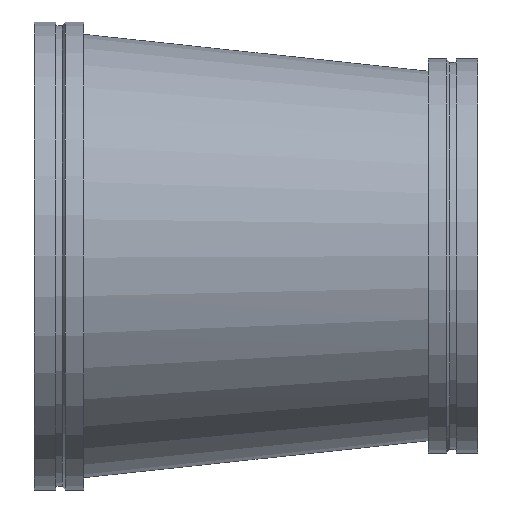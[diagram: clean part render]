
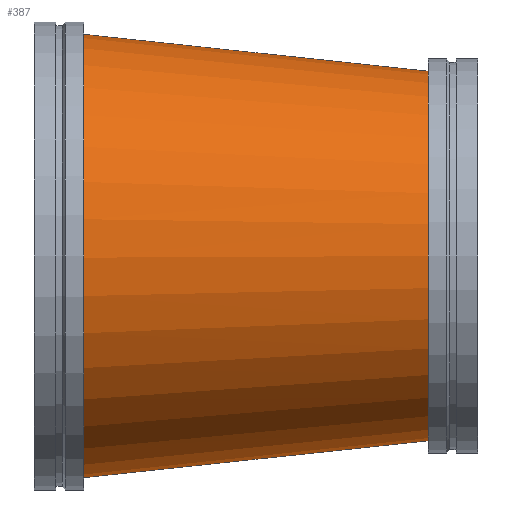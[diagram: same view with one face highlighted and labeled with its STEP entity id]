
A CAD part, front view. The second image highlights one B-rep face of the part: STEP entity #387.
In plain terms, the highlighted free-form (B-spline) face has degree [1, 2] with [2, 9] control points.
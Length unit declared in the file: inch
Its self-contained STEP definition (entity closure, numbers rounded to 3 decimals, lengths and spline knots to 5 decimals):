
#46=B_SPLINE_CURVE_WITH_KNOTS('',1,(#747,#748),.UNSPECIFIED.,.F.,.F.,(2,
2),(-1.5742,-0.00119),.UNSPECIFIED.);
#48=(
BOUNDED_SURFACE()
B_SPLINE_SURFACE(1,2,((#729,#730,#731,#732,#733,#734,#735,#736,#737),(#738,
#739,#740,#741,#742,#743,#744,#745,#746)),.UNSPECIFIED.,.F.,.T.,.F.)
B_SPLINE_SURFACE_WITH_KNOTS((2,2),(3,2,2,2,3),(-0.10594,1.6615),
(-3.14159,-1.5708,0.,1.5708,3.14159),
 .UNSPECIFIED.)
GEOMETRIC_REPRESENTATION_ITEM()
RATIONAL_B_SPLINE_SURFACE(((1.,0.707,1.,0.707,1.,
0.707,1.,0.707,1.),(1.,0.707,1.,0.707,
1.,0.707,1.,0.707,1.)))
REPRESENTATION_ITEM('')
SURFACE()
);
#98=FACE_OUTER_BOUND('',#120,.T.);
#120=EDGE_LOOP('',(#321,#322,#323,#324,#325,#326));
#129=CIRCLE('',#415,15.);
#130=CIRCLE('',#416,15.);
#153=CIRCLE('',#450,18.);
#154=CIRCLE('',#451,18.);
#166=VERTEX_POINT('',#628);
#167=VERTEX_POINT('',#629);
#190=VERTEX_POINT('',#695);
#191=VERTEX_POINT('',#696);
#203=EDGE_CURVE('',#166,#167,#129,.T.);
#204=EDGE_CURVE('',#167,#166,#130,.T.);
#235=EDGE_CURVE('',#190,#191,#153,.T.);
#236=EDGE_CURVE('',#191,#190,#154,.T.);
#243=EDGE_CURVE('',#167,#191,#46,.T.);
#321=ORIENTED_EDGE('',*,*,#203,.T.);
#322=ORIENTED_EDGE('',*,*,#243,.T.);
#323=ORIENTED_EDGE('',*,*,#236,.T.);
#324=ORIENTED_EDGE('',*,*,#235,.T.);
#325=ORIENTED_EDGE('',*,*,#243,.F.);
#326=ORIENTED_EDGE('',*,*,#204,.T.);
#387=ADVANCED_FACE('',(#98),#48,.F.);
#415=AXIS2_PLACEMENT_3D('',#630,#486,#487);
#416=AXIS2_PLACEMENT_3D('',#631,#488,#489);
#450=AXIS2_PLACEMENT_3D('',#697,#564,#565);
#451=AXIS2_PLACEMENT_3D('',#698,#566,#567);
#486=DIRECTION('center_axis',(-1.,0.,0.));
#487=DIRECTION('ref_axis',(0.,-1.,0.));
#488=DIRECTION('center_axis',(-1.,0.,0.));
#489=DIRECTION('ref_axis',(0.,-1.,0.));
#564=DIRECTION('center_axis',(1.,0.,0.));
#565=DIRECTION('ref_axis',(0.,1.,0.));
#566=DIRECTION('center_axis',(1.,0.,0.));
#567=DIRECTION('ref_axis',(0.,1.,0.));
#628=CARTESIAN_POINT('',(32.,-18.,0.));
#629=CARTESIAN_POINT('',(32.,-3.16835,14.99906));
#630=CARTESIAN_POINT('Origin',(32.,-3.,0.));
#631=CARTESIAN_POINT('Origin',(32.,-3.,0.));
#695=CARTESIAN_POINT('',(4.,18.,0.));
#696=CARTESIAN_POINT('',(4.,-0.20202,17.99887));
#697=CARTESIAN_POINT('Origin',(4.,0.,0.));
#698=CARTESIAN_POINT('Origin',(4.,0.,0.));
#729=CARTESIAN_POINT('Ctrl Pts',(2.09307,0.,18.20317));
#730=CARTESIAN_POINT('Ctrl Pts',(0.18615,-18.,18.20317));
#731=CARTESIAN_POINT('Ctrl Pts',(0.18615,-18.,0.));
#732=CARTESIAN_POINT('Ctrl Pts',(0.18615,-18.,-18.20317));
#733=CARTESIAN_POINT('Ctrl Pts',(2.09307,0.,
-18.20317));
#734=CARTESIAN_POINT('Ctrl Pts',(4.,18.,-18.20317));
#735=CARTESIAN_POINT('Ctrl Pts',(4.,18.,0.));
#736=CARTESIAN_POINT('Ctrl Pts',(4.,18.,18.20317));
#737=CARTESIAN_POINT('Ctrl Pts',(2.09307,0.,18.20317));
#738=CARTESIAN_POINT('Ctrl Pts',(33.55383,-3.33296,14.83258));
#739=CARTESIAN_POINT('Ctrl Pts',(32.,-18.,14.83258));
#740=CARTESIAN_POINT('Ctrl Pts',(32.,-18.,0.));
#741=CARTESIAN_POINT('Ctrl Pts',(32.,-18.,-14.83258));
#742=CARTESIAN_POINT('Ctrl Pts',(33.55383,-3.33296,-14.83258));
#743=CARTESIAN_POINT('Ctrl Pts',(35.10766,11.33407,-14.83258));
#744=CARTESIAN_POINT('Ctrl Pts',(35.10766,11.33407,0.));
#745=CARTESIAN_POINT('Ctrl Pts',(35.10766,11.33407,14.83258));
#746=CARTESIAN_POINT('Ctrl Pts',(33.55383,-3.33296,14.83258));
#747=CARTESIAN_POINT('Ctrl Pts',(32.,-3.16835,14.99906));
#748=CARTESIAN_POINT('Ctrl Pts',(4.,-0.20202,17.99887));
